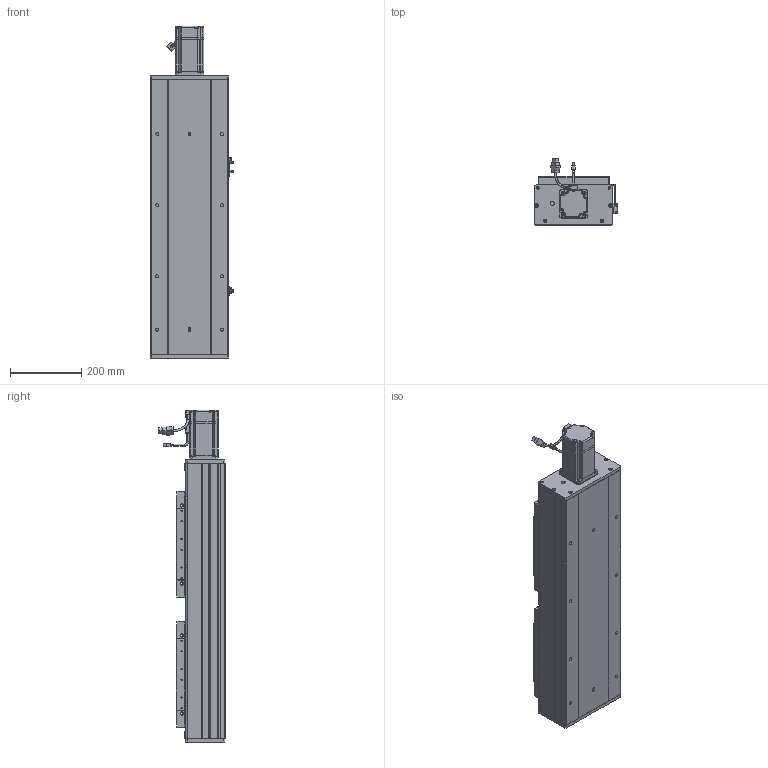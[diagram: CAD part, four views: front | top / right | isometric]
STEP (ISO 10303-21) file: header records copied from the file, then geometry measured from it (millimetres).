
FILE_DESCRIPTION (( 'STEP AP203' ), '1' );
FILE_NAME ('RY220F-L2525-300-MK.SLDASM_350.step', '2022-07-04T01:03:13', ( '' ), ( '' ), 'SwSTEP 2.0', 'SolidWorks 2016', '' );
FILE_SCHEMA (( 'CONFIG_CONTROL_DESIGN' ));
Length unit declared in the file: millimetre
Products named in the file (15): RY220F-L2525-300-MK.SLDASM_350; RY220F-祥凄詩湍-MK-300_350; 滅袉蝶18-20; RY220F綴裔啣; 滅袉蝶18-24; RY220电机支撑座FK20（PCD90M6）; RY220F臏賑釱25-32佪裝; RY220F-奻裔啣-300_350; RY220F菁釱MK-300_350; 怢湛750W_ECMA-CX0807ES; 覜茼ん672; RY220F-滅鳥奻裔; RY220F-672覜茼んえ; RY220Fヶ裔啣; RY220F-詩湍揤踡輸
Assembly tree (23 placements, depth 2):
  RY220F-L2525-300-MK.SLDASM_350
    RY220F菁釱MK-300_350
    RY220电机支撑座FK20（PCD90M6）
    RY220F-奻裔啣-300_350  x2
    怢湛750W_ECMA-CX0807ES
    RY220F臏賑釱25-32佪裝  x2
    RY220F-滅鳥奻裔  x2
    滅袉蝶18-20
    滅袉蝶18-24  x3
    RY220Fヶ裔啣
    RY220F綴裔啣
    RY220F-祥凄詩湍-MK-300_350
    RY220F-詩湍揤踡輸  x2
    覜茼ん672  x3
    RY220F-672覜茼んえ  x2
Bounding box: 233.7 x 187.27 x 934.3 mm (x, y, z)
Volume: 10553166.1 mm3; surface area: 2487162.7 mm2
Topology: 24 solids, 24 shells, 2658 faces, 7298 edges, 4542 vertices
Faces by surface type: cylinder 1190, plane 1030, cone 375, bspline 37, sphere 16, torus 10
Entity records: 66098 total; most frequent: CARTESIAN_POINT 18018, ORIENTED_EDGE 9778, DIRECTION 9406, EDGE_CURVE 4889, AXIS2_PLACEMENT_3D 3323, VERTEX_POINT 3182, LINE 2760, VECTOR 2760
